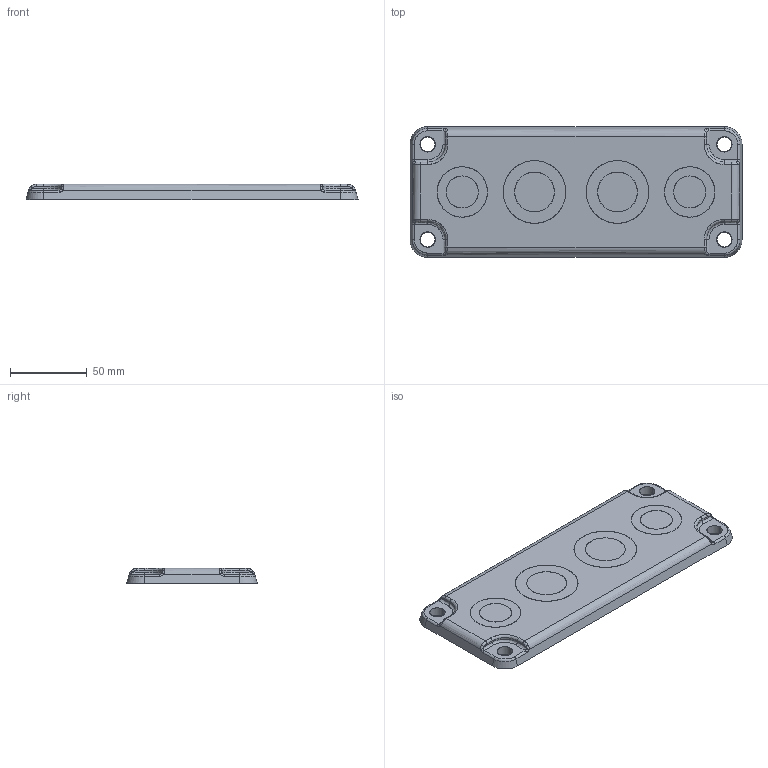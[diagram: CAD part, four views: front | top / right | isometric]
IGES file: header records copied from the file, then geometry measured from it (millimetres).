
Start section: SolidWorks IGES file using analytic representation for surfaces
Global section: file name: G:\3DRAW\EK\3DCAM\Accessories\Solidpart\FIBOX MB10890.IGS; native system: SolidWorks 2011; preprocessor: SolidWorks 2011; author: KennethW; date: 110302.082950; units: millimetre
Bounding box: 216 x 85 x 10 mm (x, y, z)
Surface area: 44075.1 mm2 (no closed solid volume)
Topology: 0 solids, 0 shells, 211 faces, 2536 edges, 2532 vertices
Faces by surface type: bspline 119, revolution 92
